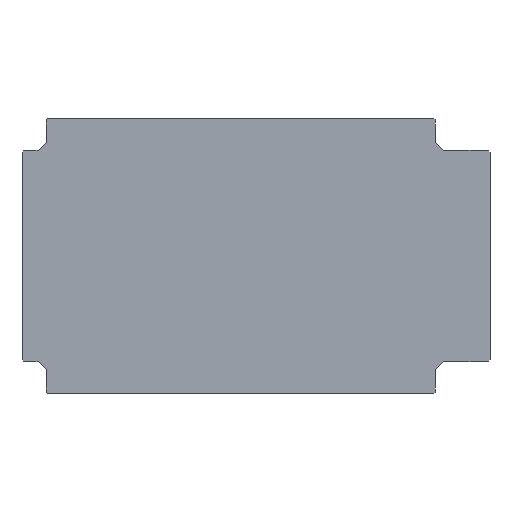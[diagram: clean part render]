
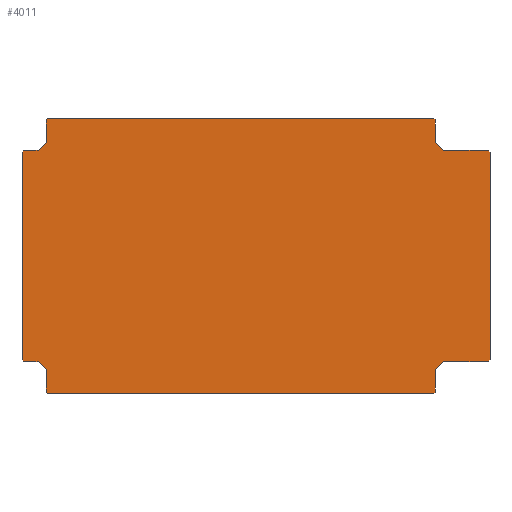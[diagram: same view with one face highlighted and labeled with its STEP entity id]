
A CAD part, front view. The second image highlights one B-rep face of the part: STEP entity #4011.
In plain terms, the highlighted planar face has unit normal (0, -1, 0) as drawn and (0, 0, 1) by its records, which use the part's own axes.
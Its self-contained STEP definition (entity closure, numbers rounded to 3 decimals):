
#1121=CARTESIAN_POINT(' ',(308.5,131.5,0.));
#1126=DIRECTION(' ',(-1.,0.,0.));
#1131=VECTOR(' ',#1126,1.);
#1136=LINE('',#1121,#1131);
#1141=CARTESIAN_POINT(' ',(308.5,131.5,0.));
#1142=VERTEX_POINT(' ',#1141);
#1146=CARTESIAN_POINT(' ',(252.5,131.5,0.));
#1147=VERTEX_POINT(' ',#1146);
#1151=EDGE_CURVE(' ',#1142,#1147,#1136,.T.);
#1276=CARTESIAN_POINT(' ',(310.5,129.5,0.));
#1281=DIRECTION(' ',(-0.707,0.707,0.));
#1286=VECTOR(' ',#1281,1.);
#1291=LINE('',#1276,#1286);
#1296=CARTESIAN_POINT(' ',(310.5,129.5,0.));
#1297=VERTEX_POINT(' ',#1296);
#1301=EDGE_CURVE(' ',#1297,#1142,#1291,.T.);
#1391=CARTESIAN_POINT(' ',(310.5,-129.5,0.));
#1396=DIRECTION(' ',(0.,1.,0.));
#1401=VECTOR(' ',#1396,1.);
#1406=LINE('',#1391,#1401);
#1411=CARTESIAN_POINT(' ',(310.5,-129.5,0.));
#1412=VERTEX_POINT(' ',#1411);
#1416=EDGE_CURVE(' ',#1412,#1297,#1406,.T.);
#1506=CARTESIAN_POINT(' ',(308.5,-131.5,0.));
#1511=DIRECTION(' ',(0.707,0.707,0.));
#1516=VECTOR(' ',#1511,1.);
#1521=LINE('',#1506,#1516);
#1526=CARTESIAN_POINT(' ',(308.5,-131.5,0.));
#1527=VERTEX_POINT(' ',#1526);
#1531=EDGE_CURVE(' ',#1527,#1412,#1521,.T.);
#1621=CARTESIAN_POINT(' ',(252.5,-131.5,0.));
#1626=DIRECTION(' ',(1.,0.,0.));
#1631=VECTOR(' ',#1626,1.);
#1636=LINE('',#1621,#1631);
#1641=CARTESIAN_POINT(' ',(252.5,-131.5,0.));
#1642=VERTEX_POINT(' ',#1641);
#1646=EDGE_CURVE(' ',#1642,#1527,#1636,.T.);
#1726=CARTESIAN_POINT(' ',(242.5,-141.5,0.));
#1731=DIRECTION(' ',(0.707,0.707,0.));
#1736=VECTOR(' ',#1731,1.);
#1741=LINE('',#1726,#1736);
#1746=CARTESIAN_POINT(' ',(242.5,-141.5,0.));
#1747=VERTEX_POINT(' ',#1746);
#1751=EDGE_CURVE(' ',#1747,#1642,#1741,.T.);
#1841=CARTESIAN_POINT(' ',(242.5,-169.5,0.));
#1846=DIRECTION(' ',(0.,1.,0.));
#1851=VECTOR(' ',#1846,1.);
#1856=LINE('',#1841,#1851);
#1861=CARTESIAN_POINT(' ',(242.5,-169.5,0.));
#1862=VERTEX_POINT(' ',#1861);
#1866=EDGE_CURVE(' ',#1862,#1747,#1856,.T.);
#1956=CARTESIAN_POINT(' ',(240.5,-171.5,0.));
#1961=DIRECTION(' ',(0.707,0.707,0.));
#1966=VECTOR(' ',#1961,1.);
#1971=LINE('',#1956,#1966);
#1976=CARTESIAN_POINT(' ',(240.5,-171.5,0.));
#1977=VERTEX_POINT(' ',#1976);
#1981=EDGE_CURVE(' ',#1977,#1862,#1971,.T.);
#2081=CARTESIAN_POINT(' ',(-240.5,-171.5,0.));
#2086=DIRECTION(' ',(1.,0.,0.));
#2091=VECTOR(' ',#2086,1.);
#2096=LINE('',#2081,#2091);
#2101=CARTESIAN_POINT(' ',(-240.5,-171.5,0.));
#2102=VERTEX_POINT(' ',#2101);
#2106=EDGE_CURVE(' ',#2102,#1977,#2096,.T.);
#2186=CARTESIAN_POINT(' ',(-242.5,-169.5,0.));
#2191=DIRECTION(' ',(0.707,-0.707,0.));
#2196=VECTOR(' ',#2191,1.);
#2201=LINE('',#2186,#2196);
#2206=CARTESIAN_POINT(' ',(-242.5,-169.5,0.));
#2207=VERTEX_POINT(' ',#2206);
#2211=EDGE_CURVE(' ',#2207,#2102,#2201,.T.);
#2311=CARTESIAN_POINT(' ',(-242.5,-141.5,0.));
#2316=DIRECTION(' ',(0.,-1.,0.));
#2321=VECTOR(' ',#2316,1.);
#2326=LINE('',#2311,#2321);
#2331=CARTESIAN_POINT(' ',(-242.5,-141.5,0.));
#2332=VERTEX_POINT(' ',#2331);
#2336=EDGE_CURVE(' ',#2332,#2207,#2326,.T.);
#2416=CARTESIAN_POINT(' ',(-252.5,-131.5,0.));
#2421=DIRECTION(' ',(0.707,-0.707,0.));
#2426=VECTOR(' ',#2421,1.);
#2431=LINE('',#2416,#2426);
#2436=CARTESIAN_POINT(' ',(-252.5,-131.5,0.));
#2437=VERTEX_POINT(' ',#2436);
#2441=EDGE_CURVE(' ',#2437,#2332,#2431,.T.);
#2531=CARTESIAN_POINT(' ',(-270.5,-131.5,0.));
#2536=DIRECTION(' ',(1.,0.,0.));
#2541=VECTOR(' ',#2536,1.);
#2546=LINE('',#2531,#2541);
#2551=CARTESIAN_POINT(' ',(-270.5,-131.5,0.));
#2552=VERTEX_POINT(' ',#2551);
#2556=EDGE_CURVE(' ',#2552,#2437,#2546,.T.);
#2646=CARTESIAN_POINT(' ',(-272.5,-129.5,0.));
#2651=DIRECTION(' ',(0.707,-0.707,0.));
#2656=VECTOR(' ',#2651,1.);
#2661=LINE('',#2646,#2656);
#2666=CARTESIAN_POINT(' ',(-272.5,-129.5,0.));
#2667=VERTEX_POINT(' ',#2666);
#2671=EDGE_CURVE(' ',#2667,#2552,#2661,.T.);
#2771=CARTESIAN_POINT(' ',(-272.5,129.5,0.));
#2776=DIRECTION(' ',(0.,-1.,0.));
#2781=VECTOR(' ',#2776,1.);
#2786=LINE('',#2771,#2781);
#2791=CARTESIAN_POINT(' ',(-272.5,129.5,0.));
#2792=VERTEX_POINT(' ',#2791);
#2796=EDGE_CURVE(' ',#2792,#2667,#2786,.T.);
#2876=CARTESIAN_POINT(' ',(-270.5,131.5,0.));
#2881=DIRECTION(' ',(-0.707,-0.707,0.));
#2886=VECTOR(' ',#2881,1.);
#2891=LINE('',#2876,#2886);
#2896=CARTESIAN_POINT(' ',(-270.5,131.5,0.));
#2897=VERTEX_POINT(' ',#2896);
#2901=EDGE_CURVE(' ',#2897,#2792,#2891,.T.);
#3001=CARTESIAN_POINT(' ',(-252.5,131.5,0.));
#3006=DIRECTION(' ',(-1.,0.,0.));
#3011=VECTOR(' ',#3006,1.);
#3016=LINE('',#3001,#3011);
#3021=CARTESIAN_POINT(' ',(-252.5,131.5,0.));
#3022=VERTEX_POINT(' ',#3021);
#3026=EDGE_CURVE(' ',#3022,#2897,#3016,.T.);
#3106=CARTESIAN_POINT(' ',(-242.5,141.5,0.));
#3111=DIRECTION(' ',(-0.707,-0.707,0.));
#3116=VECTOR(' ',#3111,1.);
#3121=LINE('',#3106,#3116);
#3126=CARTESIAN_POINT(' ',(-242.5,141.5,0.));
#3127=VERTEX_POINT(' ',#3126);
#3131=EDGE_CURVE(' ',#3127,#3022,#3121,.T.);
#3221=CARTESIAN_POINT(' ',(-242.5,169.5,0.));
#3226=DIRECTION(' ',(0.,-1.,0.));
#3231=VECTOR(' ',#3226,1.);
#3236=LINE('',#3221,#3231);
#3241=CARTESIAN_POINT(' ',(-242.5,169.5,0.));
#3242=VERTEX_POINT(' ',#3241);
#3246=EDGE_CURVE(' ',#3242,#3127,#3236,.T.);
#3336=CARTESIAN_POINT(' ',(-240.5,171.5,0.));
#3341=DIRECTION(' ',(-0.707,-0.707,0.));
#3346=VECTOR(' ',#3341,1.);
#3351=LINE('',#3336,#3346);
#3356=CARTESIAN_POINT(' ',(-240.5,171.5,0.));
#3357=VERTEX_POINT(' ',#3356);
#3361=EDGE_CURVE(' ',#3357,#3242,#3351,.T.);
#3461=CARTESIAN_POINT(' ',(240.5,171.5,0.));
#3466=DIRECTION(' ',(-1.,0.,0.));
#3471=VECTOR(' ',#3466,1.);
#3476=LINE('',#3461,#3471);
#3481=CARTESIAN_POINT(' ',(240.5,171.5,0.));
#3482=VERTEX_POINT(' ',#3481);
#3486=EDGE_CURVE(' ',#3482,#3357,#3476,.T.);
#3566=CARTESIAN_POINT(' ',(242.5,169.5,0.));
#3571=DIRECTION(' ',(-0.707,0.707,0.));
#3576=VECTOR(' ',#3571,1.);
#3581=LINE('',#3566,#3576);
#3586=CARTESIAN_POINT(' ',(242.5,169.5,0.));
#3587=VERTEX_POINT(' ',#3586);
#3591=EDGE_CURVE(' ',#3587,#3482,#3581,.T.);
#3691=CARTESIAN_POINT(' ',(242.5,141.5,0.));
#3696=DIRECTION(' ',(0.,1.,0.));
#3701=VECTOR(' ',#3696,1.);
#3706=LINE('',#3691,#3701);
#3711=CARTESIAN_POINT(' ',(242.5,141.5,0.));
#3712=VERTEX_POINT(' ',#3711);
#3716=EDGE_CURVE(' ',#3712,#3587,#3706,.T.);
#3796=CARTESIAN_POINT(' ',(252.5,131.5,0.));
#3801=DIRECTION(' ',(-0.707,0.707,0.));
#3806=VECTOR(' ',#3801,1.);
#3811=LINE('',#3796,#3806);
#3816=EDGE_CURVE(' ',#1147,#3712,#3811,.T.);
#3856=DIRECTION(' ',(-0.,-0.,1.));
#3861=CARTESIAN_POINT(' ',(310.5,-171.5,0.));
#3866=DIRECTION(' ',(0.,1.,0.));
#3871=AXIS2_PLACEMENT_3D(' ',#3861,#3856,#3866);
#3876=PLANE('NONE',#3871);
#3881=ORIENTED_EDGE(' ',*,*,#1416,.T.);
#3886=ORIENTED_EDGE(' ',*,*,#1301,.T.);
#3891=ORIENTED_EDGE(' ',*,*,#1151,.T.);
#3896=ORIENTED_EDGE(' ',*,*,#3816,.T.);
#3901=ORIENTED_EDGE(' ',*,*,#3716,.T.);
#3906=ORIENTED_EDGE(' ',*,*,#3591,.T.);
#3911=ORIENTED_EDGE(' ',*,*,#3486,.T.);
#3916=ORIENTED_EDGE(' ',*,*,#3361,.T.);
#3921=ORIENTED_EDGE(' ',*,*,#3246,.T.);
#3926=ORIENTED_EDGE(' ',*,*,#3131,.T.);
#3931=ORIENTED_EDGE(' ',*,*,#3026,.T.);
#3936=ORIENTED_EDGE(' ',*,*,#2901,.T.);
#3941=ORIENTED_EDGE(' ',*,*,#2796,.T.);
#3946=ORIENTED_EDGE(' ',*,*,#2671,.T.);
#3951=ORIENTED_EDGE(' ',*,*,#2556,.T.);
#3956=ORIENTED_EDGE(' ',*,*,#2441,.T.);
#3961=ORIENTED_EDGE(' ',*,*,#2336,.T.);
#3966=ORIENTED_EDGE(' ',*,*,#2211,.T.);
#3971=ORIENTED_EDGE(' ',*,*,#2106,.T.);
#3976=ORIENTED_EDGE(' ',*,*,#1981,.T.);
#3981=ORIENTED_EDGE(' ',*,*,#1866,.T.);
#3986=ORIENTED_EDGE(' ',*,*,#1751,.T.);
#3991=ORIENTED_EDGE(' ',*,*,#1646,.T.);
#3996=ORIENTED_EDGE(' ',*,*,#1531,.T.);
#4001=EDGE_LOOP(' ',(#3881,#3886,#3891,#3896,#3901,#3906,#3911,#3916,#3921,#3926,#3931,#3936,#3941,#3946,#3951,#3956,#3961,#3966,#3971,#3976,#3981,#3986,#3991,#3996));
#4006=FACE_OUTER_BOUND(' ',#4001,.T.);
#4011=ADVANCED_FACE('NONE',(#4006),#3876,.T.);
